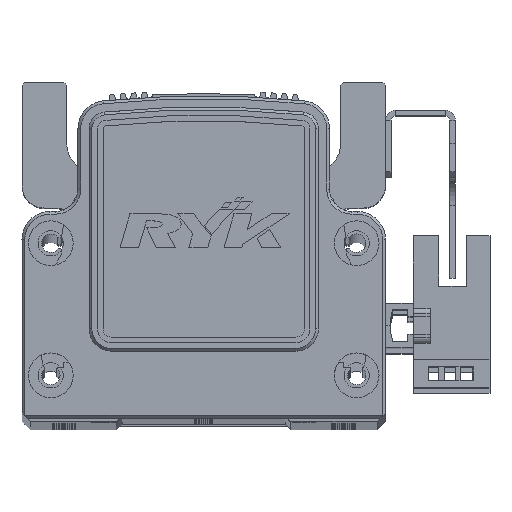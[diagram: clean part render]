
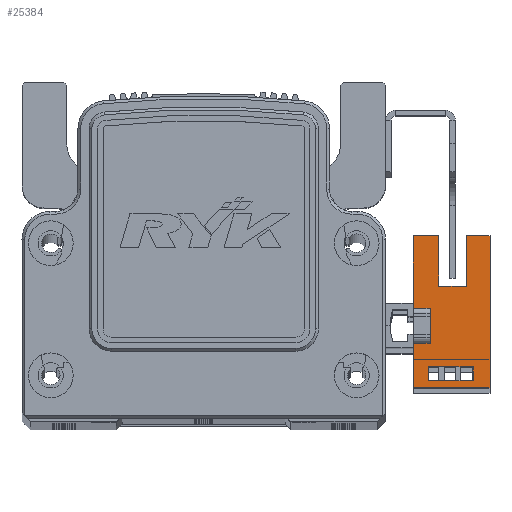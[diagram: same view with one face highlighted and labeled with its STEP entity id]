
A CAD part, top view. The second image highlights one B-rep face of the part: STEP entity #25384.
In plain terms, the highlighted planar face has unit normal (0, 0, 1) as drawn and (1, 0, 0) by its records, which use the part's own axes.
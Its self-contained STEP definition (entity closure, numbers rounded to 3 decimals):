
#1820 = CARTESIAN_POINT ( 'NONE',  ( 3.2, 16.1, -10.7 ) ) ;
#1822 = CARTESIAN_POINT ( 'NONE',  ( 3.2, 16.1, -6.5 ) ) ;
#1847 = CARTESIAN_POINT ( 'NONE',  ( 3.2, -11.1, 3. ) ) ;
#1852 = CARTESIAN_POINT ( 'NONE',  ( 3.2, 3.1, 0. ) ) ;
#1864 = CARTESIAN_POINT ( 'NONE',  ( 3.2, -9.83, 0.3 ) ) ;
#1868 = CARTESIAN_POINT ( 'NONE',  ( 3.2, -11.1, -10.7 ) ) ;
#1886 = CARTESIAN_POINT ( 'NONE',  ( 3.2, 16.1, -1.5 ) ) ;
#1898 = CARTESIAN_POINT ( 'NONE',  ( 3.2, 16.1, 3. ) ) ;
#1906 = CARTESIAN_POINT ( 'NONE',  ( 3.2, -7.33, 0.3 ) ) ;
#1916 = CARTESIAN_POINT ( 'NONE',  ( 3.2, 7.1, -6.5 ) ) ;
#1936 = CARTESIAN_POINT ( 'NONE',  ( 3.2, -3.1, 0. ) ) ;
#1938 = CARTESIAN_POINT ( 'NONE',  ( 3.2, 3.1, 3. ) ) ;
#1940 = CARTESIAN_POINT ( 'NONE',  ( 3.2, 7.1, -1.5 ) ) ;
#1969 = CARTESIAN_POINT ( 'NONE',  ( 3.2, -7.33, -7.7 ) ) ;
#1971 = CARTESIAN_POINT ( 'NONE',  ( 3.2, -3.1, 3. ) ) ;
#2037 = CARTESIAN_POINT ( 'NONE',  ( 3.2, -9.83, -7.7 ) ) ;
#2597 = VERTEX_POINT ( 'NONE', #1820 ) ;
#2599 = VERTEX_POINT ( 'NONE', #1822 ) ;
#2631 = VERTEX_POINT ( 'NONE', #1868 ) ;
#2641 = VERTEX_POINT ( 'NONE', #1847 ) ;
#2643 = VERTEX_POINT ( 'NONE', #1886 ) ;
#2646 = VERTEX_POINT ( 'NONE', #1852 ) ;
#2650 = VERTEX_POINT ( 'NONE', #1898 ) ;
#2659 = VERTEX_POINT ( 'NONE', #1864 ) ;
#2675 = VERTEX_POINT ( 'NONE', #1906 ) ;
#2684 = VERTEX_POINT ( 'NONE', #1940 ) ;
#2686 = VERTEX_POINT ( 'NONE', #1916 ) ;
#2695 = VERTEX_POINT ( 'NONE', #1971 ) ;
#2710 = VERTEX_POINT ( 'NONE', #1938 ) ;
#2720 = VERTEX_POINT ( 'NONE', #1969 ) ;
#2736 = VERTEX_POINT ( 'NONE', #1936 ) ;
#2776 = VERTEX_POINT ( 'NONE', #2037 ) ;
#6532 = CARTESIAN_POINT ( 'NONE',  ( 3.2, -9.83, -10.7 ) ) ;
#6533 = DIRECTION ( 'NONE',  ( 0., 0., -1. ) ) ;
#7074 = CARTESIAN_POINT ( 'NONE',  ( 3.2, 16.1, 3. ) ) ;
#7079 = DIRECTION ( 'NONE',  ( 0., 1., 0. ) ) ;
#7088 = DIRECTION ( 'NONE',  ( 0., 0., 1. ) ) ;
#7096 = CARTESIAN_POINT ( 'NONE',  ( 3.2, 16.1, -10.7 ) ) ;
#7099 = CARTESIAN_POINT ( 'NONE',  ( 3.2, -11.1, 3. ) ) ;
#7100 = DIRECTION ( 'NONE',  ( 0., 0., 1. ) ) ;
#7123 = CARTESIAN_POINT ( 'NONE',  ( 3.2, 16.1, -10.7 ) ) ;
#7139 = DIRECTION ( 'NONE',  ( 0., -1., 0. ) ) ;
#7159 = DIRECTION ( 'NONE',  ( 0., 1., 0. ) ) ;
#7177 = CARTESIAN_POINT ( 'NONE',  ( 3.2, 16.1, 0.3 ) ) ;
#7325 = DIRECTION ( 'NONE',  ( 0., 1., 0. ) ) ;
#7332 = CARTESIAN_POINT ( 'NONE',  ( 3.2, 16.1, 3. ) ) ;
#7353 = CARTESIAN_POINT ( 'NONE',  ( 3.2, 25.1, -1.5 ) ) ;
#7361 = DIRECTION ( 'NONE',  ( 0., 1., 0. ) ) ;
#7612 = ORIENTED_EDGE ( 'NONE', *, *, #9720, .T. ) ;
#7620 = ORIENTED_EDGE ( 'NONE', *, *, #9757, .T. ) ;
#7626 = ORIENTED_EDGE ( 'NONE', *, *, #9758, .F. ) ;
#7628 = ORIENTED_EDGE ( 'NONE', *, *, #9694, .T. ) ;
#7636 = ORIENTED_EDGE ( 'NONE', *, *, #9649, .F. ) ;
#7642 = ORIENTED_EDGE ( 'NONE', *, *, #9717, .F. ) ;
#7646 = ORIENTED_EDGE ( 'NONE', *, *, #9752, .T. ) ;
#7656 = ORIENTED_EDGE ( 'NONE', *, *, #9643, .F. ) ;
#7664 = ORIENTED_EDGE ( 'NONE', *, *, #9687, .F. ) ;
#7665 = ORIENTED_EDGE ( 'NONE', *, *, #9710, .F. ) ;
#7673 = ORIENTED_EDGE ( 'NONE', *, *, #9660, .T. ) ;
#7696 = ORIENTED_EDGE ( 'NONE', *, *, #9704, .F. ) ;
#7722 = ORIENTED_EDGE ( 'NONE', *, *, #9639, .T. ) ;
#7723 = ORIENTED_EDGE ( 'NONE', *, *, #9744, .F. ) ;
#7728 = ORIENTED_EDGE ( 'NONE', *, *, #9669, .F. ) ;
#7732 = ORIENTED_EDGE ( 'NONE', *, *, #9760, .F. ) ;
#9639 = EDGE_CURVE ( 'NONE', #2597, #2599, #11118, .T. ) ;
#9643 = EDGE_CURVE ( 'NONE', #2641, #2695, #11131, .T. ) ;
#9649 = EDGE_CURVE ( 'NONE', #2631, #2641, #11175, .T. ) ;
#9660 = EDGE_CURVE ( 'NONE', #2631, #2597, #11185, .T. ) ;
#9669 = EDGE_CURVE ( 'NONE', #2675, #2659, #11244, .T. ) ;
#9687 = EDGE_CURVE ( 'NONE', #2710, #2650, #11277, .T. ) ;
#9694 = EDGE_CURVE ( 'NONE', #2684, #2643, #11278, .T. ) ;
#9704 = EDGE_CURVE ( 'NONE', #2659, #2776, #11314, .T. ) ;
#9710 = EDGE_CURVE ( 'NONE', #2646, #2710, #11304, .T. ) ;
#9717 = EDGE_CURVE ( 'NONE', #2720, #2675, #11338, .T. ) ;
#9720 = EDGE_CURVE ( 'NONE', #2599, #2686, #11353, .T. ) ;
#9744 = EDGE_CURVE ( 'NONE', #2776, #2720, #11368, .T. ) ;
#9752 = EDGE_CURVE ( 'NONE', #2686, #2684, #11441, .T. ) ;
#9757 = EDGE_CURVE ( 'NONE', #2643, #2650, #11431, .T. ) ;
#9758 = EDGE_CURVE ( 'NONE', #2736, #2646, #11454, .T. ) ;
#9760 = EDGE_CURVE ( 'NONE', #2695, #2736, #11396, .T. ) ;
#11110 = VECTOR ( 'NONE', #7088, 1000. ) ;
#11118 = LINE ( 'NONE', #7096, #11110 ) ;
#11131 = LINE ( 'NONE', #7074, #11138 ) ;
#11138 = VECTOR ( 'NONE', #7079, 1000. ) ;
#11166 = VECTOR ( 'NONE', #7100, 1000. ) ;
#11175 = LINE ( 'NONE', #7099, #11166 ) ;
#11185 = LINE ( 'NONE', #7123, #11216 ) ;
#11216 = VECTOR ( 'NONE', #7159, 1000. ) ;
#11244 = LINE ( 'NONE', #7177, #11245 ) ;
#11245 = VECTOR ( 'NONE', #7139, 1000. ) ;
#11255 = VECTOR ( 'NONE', #7325, 1000. ) ;
#11267 = VECTOR ( 'NONE', #7361, 1000. ) ;
#11277 = LINE ( 'NONE', #7332, #11255 ) ;
#11278 = LINE ( 'NONE', #7353, #11267 ) ;
#11304 = LINE ( 'NONE', #15150, #11318 ) ;
#11314 = LINE ( 'NONE', #6532, #11327 ) ;
#11318 = VECTOR ( 'NONE', #15151, 1000. ) ;
#11327 = VECTOR ( 'NONE', #6533, 1000. ) ;
#11338 = LINE ( 'NONE', #37452, #11340 ) ;
#11340 = VECTOR ( 'NONE', #36760, 1000. ) ;
#11351 = VECTOR ( 'NONE', #36774, 1000. ) ;
#11353 = LINE ( 'NONE', #36768, #11351 ) ;
#11368 = LINE ( 'NONE', #37120, #11390 ) ;
#11390 = VECTOR ( 'NONE', #37122, 1000. ) ;
#11396 = LINE ( 'NONE', #37209, #11406 ) ;
#11406 = VECTOR ( 'NONE', #37155, 1000. ) ;
#11413 = VECTOR ( 'NONE', #37181, 1000. ) ;
#11418 = VECTOR ( 'NONE', #37195, 1000. ) ;
#11431 = LINE ( 'NONE', #37161, #11413 ) ;
#11441 = LINE ( 'NONE', #37191, #11446 ) ;
#11446 = VECTOR ( 'NONE', #37193, 1000. ) ;
#11454 = LINE ( 'NONE', #37217, #11418 ) ;
#12111 = FACE_BOUND ( 'NONE', #40474, .T. ) ;
#12122 = FACE_OUTER_BOUND ( 'NONE', #40629, .T. ) ;
#15150 = CARTESIAN_POINT ( 'NONE',  ( 3.2, 3.1, 3. ) ) ;
#15151 = DIRECTION ( 'NONE',  ( 0., 0., 1. ) ) ;
#16232 = CARTESIAN_POINT ( 'NONE',  ( 3.2, 16.1, -10.7 ) ) ;
#16233 = DIRECTION ( 'NONE',  ( 1., 0., 0. ) ) ;
#16257 = PLANE ( 'NONE',  #30404 ) ;
#16259 = DIRECTION ( 'NONE',  ( 0., 1., 0. ) ) ;
#25384 = ADVANCED_FACE ( 'NONE', ( #12122, #12111 ), #16257, .T. ) ;
#30404 = AXIS2_PLACEMENT_3D ( 'NONE', #16232, #16233, #16259 ) ;
#36760 = DIRECTION ( 'NONE',  ( 0., 0., 1. ) ) ;
#36768 = CARTESIAN_POINT ( 'NONE',  ( 3.2, 25.1, -6.5 ) ) ;
#36774 = DIRECTION ( 'NONE',  ( 0., -1., 0. ) ) ;
#37120 = CARTESIAN_POINT ( 'NONE',  ( 3.2, 16.1, -7.7 ) ) ;
#37122 = DIRECTION ( 'NONE',  ( 0., 1., 0. ) ) ;
#37155 = DIRECTION ( 'NONE',  ( 0., 0., -1. ) ) ;
#37161 = CARTESIAN_POINT ( 'NONE',  ( 3.2, 16.1, -10.7 ) ) ;
#37181 = DIRECTION ( 'NONE',  ( 0., 0., 1. ) ) ;
#37191 = CARTESIAN_POINT ( 'NONE',  ( 3.2, 7.1, -6.5 ) ) ;
#37193 = DIRECTION ( 'NONE',  ( 0., 0., 1. ) ) ;
#37195 = DIRECTION ( 'NONE',  ( 0., 1., 0. ) ) ;
#37209 = CARTESIAN_POINT ( 'NONE',  ( 3.2, -3.1, 3. ) ) ;
#37217 = CARTESIAN_POINT ( 'NONE',  ( 3.2, 0., 0. ) ) ;
#37452 = CARTESIAN_POINT ( 'NONE',  ( 3.2, -7.33, -10.7 ) ) ;
#40474 = EDGE_LOOP ( 'NONE', ( #7728, #7642, #7723, #7696 ) ) ;
#40629 = EDGE_LOOP ( 'NONE', ( #7612, #7646, #7628, #7620, #7664, #7665, #7626, #7732, #7656, #7636, #7673, #7722 ) ) ;
